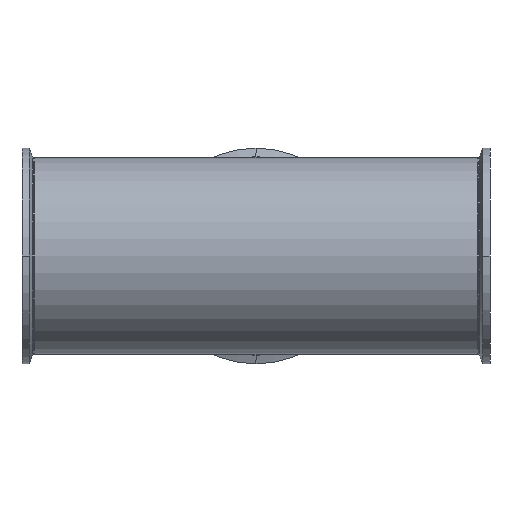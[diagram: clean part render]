
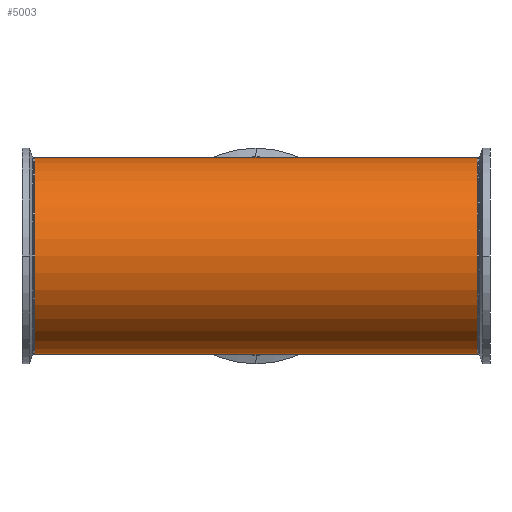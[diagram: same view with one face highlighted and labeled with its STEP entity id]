
A CAD part, front view. The second image highlights one B-rep face of the part: STEP entity #5003.
In plain terms, the highlighted cylindrical face has radius 76.2 mm (diameter 152.4 mm), a partial arc.
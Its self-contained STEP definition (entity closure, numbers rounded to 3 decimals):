
#215 = CARTESIAN_POINT ( 'NONE',  ( 386.526, 0., 0. ) ) ;
#273 = CARTESIAN_POINT ( 'NONE',  ( 386.526, 0., 76.2 ) ) ;
#409 = CARTESIAN_POINT ( 'NONE',  ( 386.526, 0., -76.2 ) ) ;
#449 = VECTOR ( 'NONE', #3687, 1000. ) ;
#532 = VERTEX_POINT ( 'NONE', #795 ) ;
#693 = LINE ( 'NONE', #273, #4625 ) ;
#709 = DIRECTION ( 'NONE',  ( -1., 0., 0. ) ) ;
#736 = DIRECTION ( 'NONE',  ( 1., 0., 0. ) ) ;
#749 = CARTESIAN_POINT ( 'NONE',  ( -171., 0., -76.2 ) ) ;
#795 = CARTESIAN_POINT ( 'NONE',  ( 0., 0., 76.2 ) ) ;
#870 = VERTEX_POINT ( 'NONE', #2177 ) ;
#1050 = LINE ( 'NONE', #4833, #2322 ) ;
#1151 = LINE ( 'NONE', #4459, #6526 ) ;
#1244 = EDGE_CURVE ( 'NONE', #532, #6752, #1050, .T. ) ;
#1433 = ORIENTED_EDGE ( 'NONE', *, *, #4073, .T. ) ;
#1587 = AXIS2_PLACEMENT_3D ( 'NONE', #5274, #2065, #5803 ) ;
#1855 = CARTESIAN_POINT ( 'NONE',  ( -171., 0., 76.2 ) ) ;
#1862 = AXIS2_PLACEMENT_3D ( 'NONE', #3971, #736, #4488 ) ;
#1888 = VERTEX_POINT ( 'NONE', #5892 ) ;
#2065 = DIRECTION ( 'NONE',  ( -1., 0., 0. ) ) ;
#2142 = EDGE_CURVE ( 'NONE', #5043, #1888, #2235, .T. ) ;
#2177 = CARTESIAN_POINT ( 'NONE',  ( 0., 0., -76.2 ) ) ;
#2205 = EDGE_CURVE ( 'NONE', #870, #4449, #3493, .T. ) ;
#2235 = CIRCLE ( 'NONE', #1587, 76.2 ) ;
#2322 = VECTOR ( 'NONE', #3823, 1000. ) ;
#2350 = DIRECTION ( 'NONE',  ( 0., 0., 1. ) ) ;
#2433 = FACE_OUTER_BOUND ( 'NONE', #5504, .T. ) ;
#2459 = DIRECTION ( 'NONE',  ( -1., 0., 0. ) ) ;
#2756 = ORIENTED_EDGE ( 'NONE', *, *, #1244, .T. ) ;
#2941 = CARTESIAN_POINT ( 'NONE',  ( 171., 0., -76.2 ) ) ;
#2999 = ORIENTED_EDGE ( 'NONE', *, *, #4920, .T. ) ;
#3153 = ORIENTED_EDGE ( 'NONE', *, *, #2205, .F. ) ;
#3289 = ORIENTED_EDGE ( 'NONE', *, *, #5985, .F. ) ;
#3315 = AXIS2_PLACEMENT_3D ( 'NONE', #215, #5033, #2350 ) ;
#3493 = LINE ( 'NONE', #409, #449 ) ;
#3687 = DIRECTION ( 'NONE',  ( -1., 0., 0. ) ) ;
#3823 = DIRECTION ( 'NONE',  ( -1., 0., 0. ) ) ;
#3971 = CARTESIAN_POINT ( 'NONE',  ( -171., 0., 0. ) ) ;
#4073 = EDGE_CURVE ( 'NONE', #1888, #532, #693, .T. ) ;
#4449 = VERTEX_POINT ( 'NONE', #749 ) ;
#4459 = CARTESIAN_POINT ( 'NONE',  ( 386.526, 0., -76.2 ) ) ;
#4488 = DIRECTION ( 'NONE',  ( 0., 0., 1. ) ) ;
#4625 = VECTOR ( 'NONE', #2459, 1000. ) ;
#4833 = CARTESIAN_POINT ( 'NONE',  ( 386.526, 0., 76.2 ) ) ;
#4920 = EDGE_CURVE ( 'NONE', #6752, #4449, #6697, .T. ) ;
#5003 = ADVANCED_FACE ( 'NONE', ( #2433 ), #5102, .T. ) ;
#5033 = DIRECTION ( 'NONE',  ( -1., 0., 0. ) ) ;
#5043 = VERTEX_POINT ( 'NONE', #2941 ) ;
#5102 = CYLINDRICAL_SURFACE ( 'NONE', #3315, 76.2 ) ;
#5274 = CARTESIAN_POINT ( 'NONE',  ( 171., 0., 0. ) ) ;
#5478 = ORIENTED_EDGE ( 'NONE', *, *, #2142, .T. ) ;
#5504 = EDGE_LOOP ( 'NONE', ( #3289, #5478, #1433, #2756, #2999, #3153 ) ) ;
#5803 = DIRECTION ( 'NONE',  ( 0., 0., 1. ) ) ;
#5892 = CARTESIAN_POINT ( 'NONE',  ( 171., 0., 76.2 ) ) ;
#5985 = EDGE_CURVE ( 'NONE', #5043, #870, #1151, .T. ) ;
#6526 = VECTOR ( 'NONE', #709, 1000. ) ;
#6697 = CIRCLE ( 'NONE', #1862, 76.2 ) ;
#6752 = VERTEX_POINT ( 'NONE', #1855 ) ;
